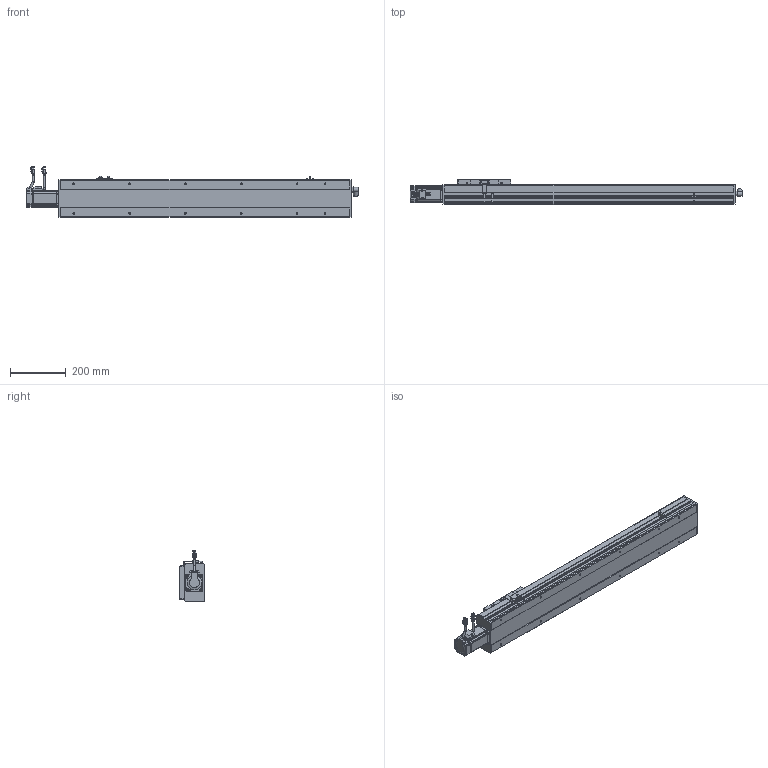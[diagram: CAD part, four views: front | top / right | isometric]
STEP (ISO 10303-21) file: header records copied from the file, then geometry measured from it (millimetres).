
FILE_DESCRIPTION(/* description */ ('STEP AP214'),/* implementation_level */ '2;1');
FILE_NAME(/* name */ 'PSC140-L05-S750-BC-P40-C1-N(0)',/* time_stamp */ '2022-06-13T03:14:57+02:00',/* author */ ('License CC BY-ND 4.0'),/* organization */ ('CADENAS'),/* preprocessor_version */ 'ST-DEVELOPER v18.102',/* originating_system */ 'PARTsolutions',/* authorisation */ ' ');
FILE_SCHEMA (('AUTOMOTIVE_DESIGN {1 0 10303 214 3 1 1}'));
Length unit declared in the file: millimetre
Products named in the file (10): PSC140-L05-S750-BC-P40-C1-N(0); P40-s2; P40-c2; P40-s1; P40-c1; P40-p1; PSC140-sensor; PSC140-BC-SLIDER; PSC140-S750-BC-P40-C1_BODY1; PSC140-L05-S750-BC-P40-C1-N(0)_dummy
Assembly tree (11 placements, depth 2):
  PSC140-L05-S750-BC-P40-C1-N(0)
    P40-s2
    P40-c2
    P40-s1
    P40-c1
    P40-p1
    PSC140-sensor  x3
    PSC140-BC-SLIDER
    PSC140-S750-BC-P40-C1_BODY1
    PSC140-L05-S750-BC-P40-C1-N(0)_dummy
Bounding box: 1189 x 91 x 182.48 mm (x, y, z)
Volume: 10666393.9 mm3; surface area: 627756.5 mm2
Topology: 10 solids, 10 shells, 1250 faces, 3220 edges, 2127 vertices
Faces by surface type: plane 866, cylinder 317, cone 48, torus 19
Full cylindrical faces by diameter (mm): 1 x8, 2.6 x10, 2.8 x3, 3.3 x8, 4.5 x12, 4.6 x3, 4.917 x16, 5 x4, 5.5 x8, 6 x10, 6.08 x4, 7 x10, 9 x2, 10 x1, 11 x1, 13.74 x1, 14 x1, 16.4 x2, 16.5 x1, 19.98 x1, 31.98 x1, 35.5 x1, 50 x2
Entity records: 34478 total; most frequent: CARTESIAN_POINT 6019, DIRECTION 5803, ORIENTED_EDGE 5582, EDGE_CURVE 2791, LINE 2109, VECTOR 2109, VERTEX_POINT 1948, AXIS2_PLACEMENT_3D 1847
